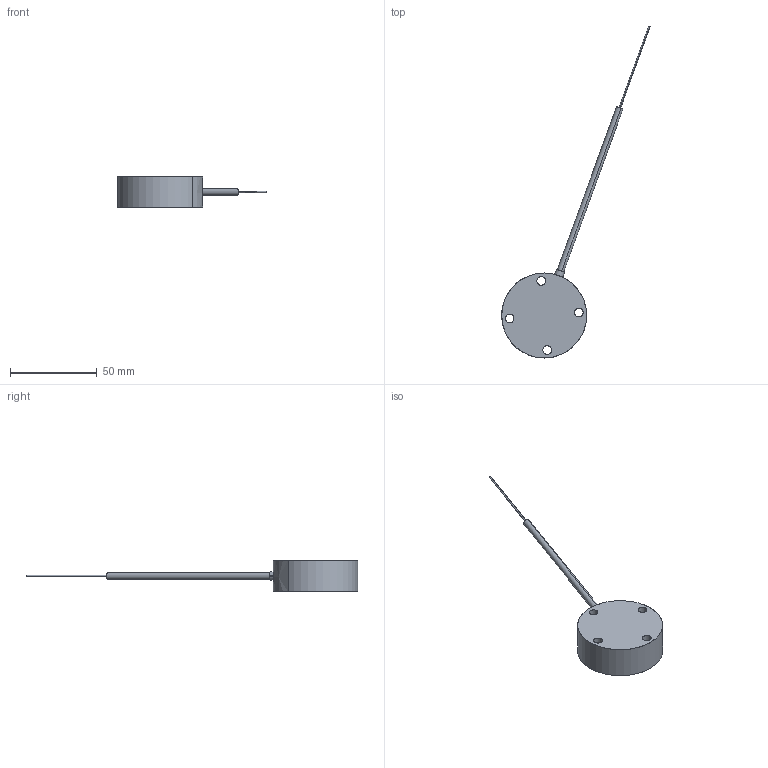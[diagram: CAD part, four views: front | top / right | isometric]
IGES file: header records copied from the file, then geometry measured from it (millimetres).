
Start section: SolidWorks IGES file using analytic representation for surfaces
Global section: file name: C:\Users\Toshiba\Desktop\SU20.IGS; native system: SolidWorks 2014; preprocessor: SolidWorks 2014; author: Toshiba; date: 160621.093452; units: metre
Bounding box: 85.68 x 191.47 x 18.3 mm (x, y, z)
Surface area: 9035.6 mm2 (no closed solid volume)
Topology: 0 solids, 0 shells, 22 faces, 630 edges, 630 vertices
Faces by surface type: revolution 16, bspline 6
